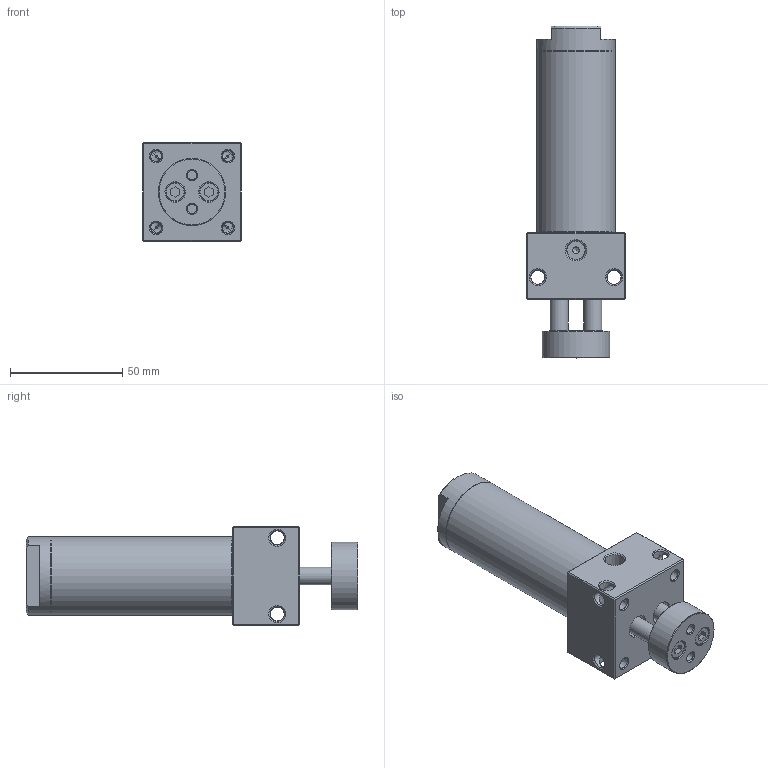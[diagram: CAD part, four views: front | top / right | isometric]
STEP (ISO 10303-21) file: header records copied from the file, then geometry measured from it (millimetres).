
FILE_DESCRIPTION((''),'2;1');
FILE_NAME('I:\3D電子目錄\氣缸\DBT\DBT\DBT30\DBT30x25.stp','2007-10-08T08:58:47',('Administrator'),(''),'Autodesk Inventor 2008','Autodesk Inventor 2008','');
FILE_SCHEMA(('AUTOMOTIVE_DESIGN { 1 0 10303 214 1 1 1 1 }'));
Length unit declared in the file: millimetre
Products named in the file (1): DBT30x25
Bounding box: 44 x 148 x 44 mm (x, y, z)
Volume: 101223.4 mm3; surface area: 43571.9 mm2
Topology: 5 solids, 5 shells, 167 faces, 388 edges, 234 vertices
Faces by surface type: plane 56, bspline 53, cone 37, cylinder 21
Full cylindrical faces by diameter (mm): 4.3 x1, 5 x1, 8 x3, 8.5 x1, 10 x1, 11 x1, 18 x1, 28.8 x2, 30 x2, 30.8 x2, 32 x2, 32.2 x2, 35 x2
Entity records: 5064 total; most frequent: CARTESIAN_POINT 1888, DIRECTION 604, ORIENTED_EDGE 538, EDGE_LOOP 298, EDGE_CURVE 269, AXIS2_PLACEMENT_3D 256, VERTEX_POINT 207, FACE_OUTER_BOUND 167
